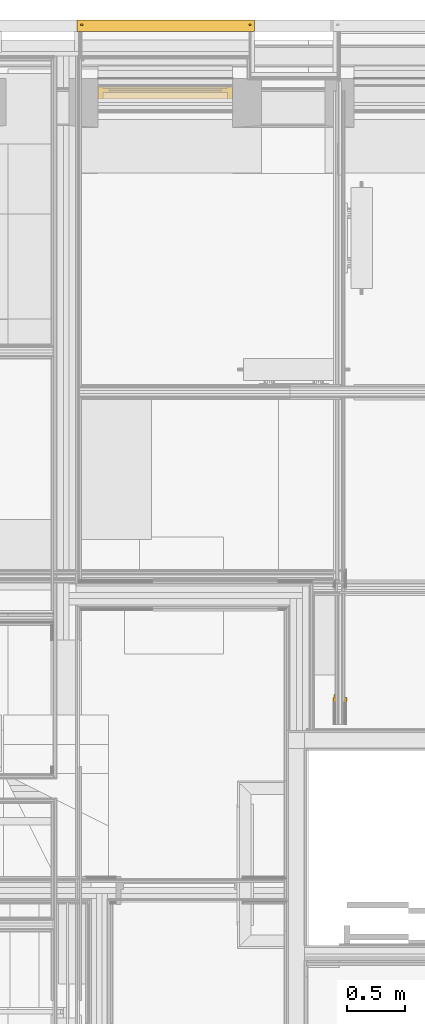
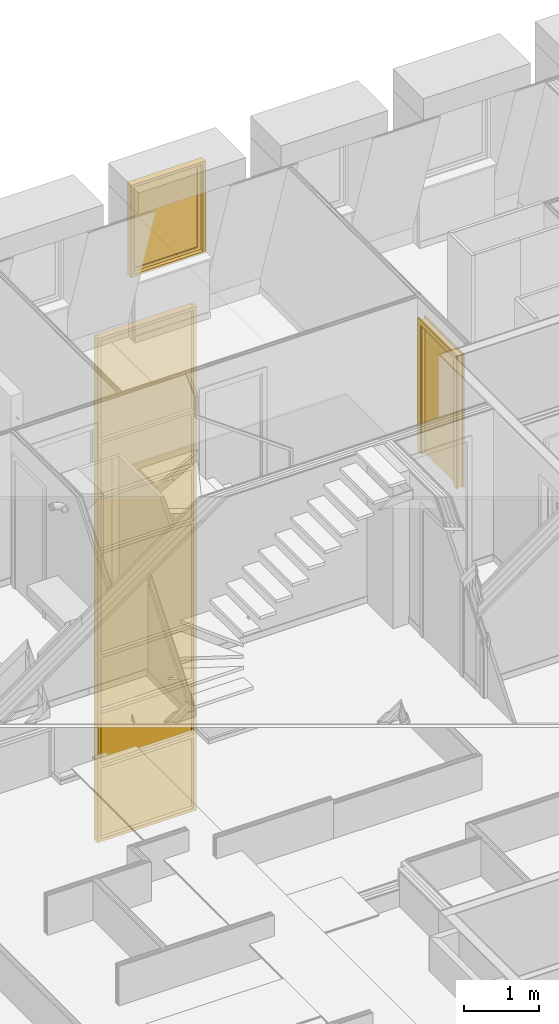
# One storey, part 112 of 169: 1 curtain wall, 1 door, 1 window.
"""IFC2X3 building model written with IfcOpenShell, lengths in metres."""

from ifc_helpers import new_model, entity, si_unit, converted_unit, derived_unit, money_unit, direction, frame, origin_with_axes, place, context, subcontext, project, spatial, faceted_brep, material, type_object, element, save


model = new_model("IFC2X3")

# Units and contexts
model_context = context("Model", 3, precision=1e-05, world=origin_with_axes(), true_north=direction((0.0, 1.0)))
body_context = subcontext(model_context, "Body", "Model", "MODEL_VIEW", scale=1.0)
ifc_project = project(units=[si_unit("LENGTHUNIT", "METRE"), si_unit("AREAUNIT", "SQUARE_METRE"), si_unit("VOLUMEUNIT", "CUBIC_METRE"), si_unit("ABSORBEDDOSEUNIT", "GRAY"), si_unit("AMOUNTOFSUBSTANCEUNIT", "MOLE"), si_unit("DOSEEQUIVALENTUNIT", "SIEVERT"), si_unit("ELECTRICCAPACITANCEUNIT", "FARAD"), si_unit("ELECTRICCHARGEUNIT", "COULOMB"), si_unit("ELECTRICCONDUCTANCEUNIT", "SIEMENS"), si_unit("ELECTRICCURRENTUNIT", "AMPERE"), si_unit("ELECTRICRESISTANCEUNIT", "OHM"), si_unit("ELECTRICVOLTAGEUNIT", "VOLT"), si_unit("ENERGYUNIT", "JOULE"), si_unit("FORCEUNIT", "NEWTON"), si_unit("FREQUENCYUNIT", "HERTZ"), si_unit("ILLUMINANCEUNIT", "LUX"), si_unit("INDUCTANCEUNIT", "HENRY"), si_unit("LUMINOUSFLUXUNIT", "LUMEN"), si_unit("LUMINOUSINTENSITYUNIT", "CANDELA"), si_unit("MAGNETICFLUXDENSITYUNIT", "TESLA"), si_unit("MAGNETICFLUXUNIT", "WEBER"), si_unit("MASSUNIT", "GRAM"), converted_unit("PLANEANGLEUNIT", "degree", entity("IfcReal", 0.0174532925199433), si_unit("PLANEANGLEUNIT", "RADIAN"), dimensions=[0, 0, 0, 0, 0, 0, 0]), si_unit("POWERUNIT", "WATT"), si_unit("PRESSUREUNIT", "PASCAL"), si_unit("RADIOACTIVITYUNIT", "BECQUEREL"), si_unit("SOLIDANGLEUNIT", "STERADIAN"), si_unit("THERMODYNAMICTEMPERATUREUNIT", "KELVIN"), si_unit("TIMEUNIT", "SECOND"), derived_unit("ACCELERATIONUNIT", [(si_unit("LENGTHUNIT", "METRE"), 1), (si_unit("TIMEUNIT", "SECOND"), -2)]), derived_unit("ANGULARVELOCITYUNIT", [(converted_unit("PLANEANGLEUNIT", "degree", entity("IfcReal", 0.0174532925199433), si_unit("PLANEANGLEUNIT", "RADIAN"), dimensions=[0, 0, 0, 0, 0, 0, 0]), 1), (si_unit("TIMEUNIT", "SECOND"), -1)]), derived_unit("CURVATUREUNIT", [(converted_unit("PLANEANGLEUNIT", "degree", entity("IfcReal", 0.0174532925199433), si_unit("PLANEANGLEUNIT", "RADIAN"), dimensions=[0, 0, 0, 0, 0, 0, 0]), 1), (si_unit("LENGTHUNIT", "METRE"), -1)]), derived_unit("DYNAMICVISCOSITYUNIT", [(si_unit("PRESSUREUNIT", "PASCAL"), 1), (si_unit("TIMEUNIT", "SECOND"), 1)]), derived_unit("HEATFLUXDENSITYUNIT", [(si_unit("POWERUNIT", "WATT"), 1), (si_unit("LENGTHUNIT", "METRE"), -2)]), derived_unit("HEATINGVALUEUNIT", [(si_unit("ENERGYUNIT", "JOULE"), 1), (si_unit("MASSUNIT", "GRAM"), -1)]), derived_unit("INTEGERCOUNTRATEUNIT", [(si_unit("TIMEUNIT", "SECOND"), -1)]), derived_unit("IONCONCENTRATIONUNIT", [(si_unit("MASSUNIT", "GRAM"), 1), (si_unit("VOLUMEUNIT", "CUBIC_METRE"), -1)]), derived_unit("ISOTHERMALMOISTURECAPACITYUNIT", [(si_unit("VOLUMEUNIT", "CUBIC_METRE"), 1), (si_unit("MASSUNIT", "GRAM"), -1)]), derived_unit("KINEMATICVISCOSITYUNIT", [(si_unit("AREAUNIT", "SQUARE_METRE"), 1), (si_unit("TIMEUNIT", "SECOND"), -1)]), derived_unit("LINEARFORCEUNIT", [(si_unit("FORCEUNIT", "NEWTON"), 1), (si_unit("LENGTHUNIT", "METRE"), -1)]), derived_unit("LINEARMOMENTUNIT", [(si_unit("FORCEUNIT", "NEWTON"), 1), (si_unit("LENGTHUNIT", "METRE"), -1)]), derived_unit("LINEARSTIFFNESSUNIT", [(si_unit("FORCEUNIT", "NEWTON"), 1), (si_unit("LENGTHUNIT", "METRE"), -1)]), derived_unit("LINEARVELOCITYUNIT", [(si_unit("LENGTHUNIT", "METRE"), 1), (si_unit("TIMEUNIT", "SECOND"), -1)]), derived_unit("LUMINOUSINTENSITYDISTRIBUTIONUNIT", [(si_unit("LUMINOUSINTENSITYUNIT", "CANDELA"), 1), (si_unit("LUMINOUSFLUXUNIT", "LUMEN"), -1)]), derived_unit("MASSDENSITYUNIT", [(si_unit("MASSUNIT", "GRAM"), 1), (si_unit("VOLUMEUNIT", "CUBIC_METRE"), -1)]), derived_unit("MASSFLOWRATEUNIT", [(si_unit("MASSUNIT", "GRAM"), 1), (si_unit("TIMEUNIT", "SECOND"), -1)]), derived_unit("MASSPERLENGTHUNIT", [(si_unit("MASSUNIT", "GRAM"), 1), (si_unit("LENGTHUNIT", "METRE"), -1)]), derived_unit("MODULUSOFELASTICITYUNIT", [(si_unit("FORCEUNIT", "NEWTON"), 1), (si_unit("AREAUNIT", "SQUARE_METRE"), -1)]), derived_unit("MODULUSOFLINEARSUBGRADEREACTIONUNIT", [(si_unit("FORCEUNIT", "NEWTON"), 1), (si_unit("LENGTHUNIT", "METRE"), -2)]), derived_unit("MODULUSOFROTATIONALSUBGRADEREACTIONUNIT", [(si_unit("FORCEUNIT", "NEWTON"), 1), (si_unit("LENGTHUNIT", "METRE"), 1)]), derived_unit("MODULUSOFSUBGRADEREACTIONUNIT", [(si_unit("FORCEUNIT", "NEWTON"), 1), (si_unit("VOLUMEUNIT", "CUBIC_METRE"), -1)]), derived_unit("MOISTUREDIFFUSIVITYUNIT", [(si_unit("VOLUMEUNIT", "CUBIC_METRE"), 1), (si_unit("TIMEUNIT", "SECOND"), -1)]), derived_unit("MOLECULARWEIGHTUNIT", [(si_unit("MASSUNIT", "GRAM"), 1), (si_unit("AMOUNTOFSUBSTANCEUNIT", "MOLE"), -1)]), derived_unit("PLANARFORCEUNIT", [(si_unit("FORCEUNIT", "NEWTON"), 1), (si_unit("LENGTHUNIT", "METRE"), -2)]), derived_unit("ROTATIONALFREQUENCYUNIT", [(si_unit("TIMEUNIT", "SECOND"), -1)]), derived_unit("ROTATIONALMASSUNIT", [(si_unit("MASSUNIT", "GRAM"), 1), (si_unit("LENGTHUNIT", "METRE"), 2)]), derived_unit("ROTATIONALSTIFFNESSUNIT", [(si_unit("FORCEUNIT", "NEWTON"), 1), (si_unit("LENGTHUNIT", "METRE"), 1), (converted_unit("PLANEANGLEUNIT", "degree", entity("IfcReal", 0.0174532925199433), si_unit("PLANEANGLEUNIT", "RADIAN"), dimensions=[0, 0, 0, 0, 0, 0, 0]), -1)]), derived_unit("SECTIONAREAINTEGRALUNIT", [(si_unit("LENGTHUNIT", "METRE"), 5)]), derived_unit("SECTIONMODULUSUNIT", [(si_unit("LENGTHUNIT", "METRE"), 3)]), derived_unit("SHEARMODULUSUNIT", [(si_unit("FORCEUNIT", "NEWTON"), 1), (si_unit("AREAUNIT", "SQUARE_METRE"), -1)]), derived_unit("SOUNDPOWERUNIT", [(si_unit("ENERGYUNIT", "JOULE"), 1), (si_unit("TIMEUNIT", "SECOND"), -1)]), derived_unit("SPECIFICHEATCAPACITYUNIT", [(si_unit("FORCEUNIT", "NEWTON"), 1), (si_unit("MASSUNIT", "GRAM"), -1), (si_unit("THERMODYNAMICTEMPERATUREUNIT", "KELVIN"), -1)]), derived_unit("TEMPERATUREGRADIENTUNIT", [(si_unit("THERMODYNAMICTEMPERATUREUNIT", "KELVIN"), 1), (si_unit("LENGTHUNIT", "METRE"), -1)]), derived_unit("THERMALADMITTANCEUNIT", [(si_unit("POWERUNIT", "WATT"), 1), (si_unit("AREAUNIT", "SQUARE_METRE"), -1), (si_unit("THERMODYNAMICTEMPERATUREUNIT", "KELVIN"), -1)]), derived_unit("THERMALCONDUCTANCEUNIT", [(si_unit("POWERUNIT", "WATT"), 1), (si_unit("LENGTHUNIT", "METRE"), -1), (si_unit("THERMODYNAMICTEMPERATUREUNIT", "KELVIN"), -1)]), derived_unit("THERMALEXPANSIONCOEFFICIENTUNIT", [(si_unit("THERMODYNAMICTEMPERATUREUNIT", "KELVIN"), -1)]), derived_unit("THERMALRESISTANCEUNIT", [(si_unit("AREAUNIT", "SQUARE_METRE"), 1), (si_unit("POWERUNIT", "WATT"), -1)]), derived_unit("THERMALTRANSMITTANCEUNIT", [(si_unit("POWERUNIT", "WATT"), 1), (si_unit("AREAUNIT", "SQUARE_METRE"), -1), (si_unit("THERMODYNAMICTEMPERATUREUNIT", "KELVIN"), -1)]), derived_unit("TORQUEUNIT", [(si_unit("FORCEUNIT", "NEWTON"), 1), (si_unit("LENGTHUNIT", "METRE"), 1)]), derived_unit("VAPORPERMEABILITYUNIT", [(si_unit("MASSUNIT", "GRAM"), 1), (si_unit("TIMEUNIT", "SECOND"), -1)]), derived_unit("VOLUMETRICFLOWRATEUNIT", [(si_unit("VOLUMEUNIT", "CUBIC_METRE"), 1), (si_unit("TIMEUNIT", "SECOND"), -1)]), derived_unit("WARPINGCONSTANTUNIT", [(si_unit("LENGTHUNIT", "METRE"), 6)]), derived_unit("WARPINGMOMENTUNIT", [(si_unit("FORCEUNIT", "NEWTON"), 1), (si_unit("LENGTHUNIT", "METRE"), 2)]), money_unit("GBP")], contexts=[model_context])

# Site, building, storey
site_placement = place(None, origin_with_axes())
site = spatial("IfcSite", under=ifc_project, at=site_placement, Name="Site", CompositionType="ELEMENT")
building_placement = place(site_placement, origin_with_axes())
building = spatial("IfcBuilding", under=site, at=building_placement, Name="Building01", CompositionType="ELEMENT")
storey_placement = place(building_placement, frame((0.0, 0.0, 5.15), z_axis=(0.0, 0.0, 1.0), x_axis=(1.0, 0.0, 0.0)))
storey = spatial("IfcBuildingStorey", under=building, at=storey_placement, Name="1F", CompositionType="ELEMENT", Elevation=5.15)

# Curtain wall
ifc_material_1 = material(Name="A-CurtainWall_Frame")
curtain_wall_type = type_object("IfcCurtainWallType", Name="Pattern - Maximum Spacing", PredefinedType="NOTDEFINED")
curtain_wall_placement = place(storey_placement, frame((0.0, 0.0, -5.15), z_axis=(0.0, 0.0, 1.0), x_axis=(1.0, 0.0, 0.0)))
element("IfcCurtainWall", 1, at=curtain_wall_placement, inside=storey, type_object=curtain_wall_type, material=ifc_material_1, Name="09", ObjectType="Pattern - Maximum Spacing", context=body_context, shape_type="Brep", body=[
    faceted_brep([(8.76, 14.855, 7.716517), (8.76, 14.865, 7.716517), (7.3, 14.865, 7.716517), (7.3, 14.855, 7.716517), (8.76, 14.855, 6.530918), (8.76, 14.865, 6.530918), (7.3, 14.855, 6.530918), (7.3, 14.865, 6.530918)], [[[0, 1, 2, 3]], [[4, 5, 1, 0]], [[6, 7, 5, 4]], [[3, 2, 7, 6]], [[1, 5, 7, 2]], [[3, 6, 4, 0]]]),
    faceted_brep([(7.27, 14.9, 6.500918), (7.32, 14.9, 6.500918), (7.32, 14.865, 6.500918), (7.3, 14.865, 6.500918), (7.3, 14.855, 6.500918), (7.32, 14.855, 6.500918), (7.32, 14.8, 6.500918), (7.27, 14.8, 6.500918), (7.27, 14.8, 7.721517), (7.27, 14.9, 7.721517), (7.32, 14.9, 7.721517), (7.32, 14.865, 7.721517), (7.3, 14.865, 7.721517), (7.3, 14.855, 7.721517), (7.32, 14.855, 7.721517), (7.32, 14.8, 7.721517)], [[[0, 1, 2, 3, 4, 5, 6, 7]], [[7, 8, 9, 0]], [[0, 9, 10, 1]], [[1, 10, 11, 2]], [[2, 11, 12, 3]], [[3, 12, 13, 4]], [[4, 13, 14, 5]], [[5, 14, 15, 6]], [[6, 15, 8, 7]]]),
    faceted_brep([(8.74, 14.9, 6.550918), (8.74, 14.865, 6.550918), (8.74, 14.865, 6.530918), (8.74, 14.855, 6.530918), (8.74, 14.855, 6.550918), (8.74, 14.8, 6.550918), (8.74, 14.8, 6.500918), (8.74, 14.9, 6.500918), (7.32, 14.9, 6.500918), (7.32, 14.9, 6.550918), (7.32, 14.865, 6.550918), (7.32, 14.865, 6.530918), (7.32, 14.855, 6.530918), (7.32, 14.855, 6.550918), (7.32, 14.8, 6.550918), (7.32, 14.8, 6.500918)], [[[0, 1, 2, 3, 4, 5, 6, 7]], [[7, 8, 9, 0]], [[0, 9, 10, 1]], [[1, 10, 11, 2]], [[2, 11, 12, 3]], [[3, 12, 13, 4]], [[4, 13, 14, 5]], [[5, 14, 15, 6]], [[6, 15, 8, 7]], [[8, 15, 14, 13, 12, 11, 10, 9]]]),
    faceted_brep([(8.79, 14.9, 6.500918), (8.79, 14.9, 7.721517), (8.79, 14.8, 7.721517), (8.79, 14.8, 6.500918), (8.74, 14.9, 6.500918), (8.74, 14.9, 7.721517), (8.74, 14.865, 6.500918), (8.74, 14.865, 7.721517), (8.76, 14.865, 6.500918), (8.76, 14.865, 7.721517), (8.76, 14.855, 6.500918), (8.76, 14.855, 7.721517), (8.74, 14.855, 6.500918), (8.74, 14.855, 7.721517), (8.74, 14.8, 6.500918), (8.74, 14.8, 7.721517)], [[[0, 1, 2, 3]], [[4, 5, 1, 0]], [[6, 7, 5, 4]], [[8, 9, 7, 6]], [[10, 11, 9, 8]], [[12, 13, 11, 10]], [[14, 15, 13, 12]], [[3, 2, 15, 14]], [[14, 12, 10, 8, 6, 4, 0, 3]]]),
    faceted_brep([(7.32, 14.855, 7.726517), (7.32, 14.865, 7.726517), (7.32, 14.865, 7.746517), (7.32, 14.9, 7.746517), (7.32, 14.9, 7.696517), (7.32, 14.865, 7.696517), (7.32, 14.865, 7.716517), (7.32, 14.855, 7.716517), (7.32, 14.855, 7.696517), (7.32, 14.8, 7.696517), (7.32, 14.8, 7.746517), (7.32, 14.855, 7.746517), (8.74, 14.855, 7.746517), (8.74, 14.855, 7.726517), (8.74, 14.865, 7.726517), (8.74, 14.865, 7.746517), (8.74, 14.9, 7.746517), (8.74, 14.9, 7.696517), (8.74, 14.865, 7.696517), (8.74, 14.855, 7.716517), (8.74, 14.855, 7.696517), (8.74, 14.865, 7.716517), (8.74, 14.8, 7.746517), (8.74, 14.8, 7.696517)], [[[0, 1, 2, 3, 4, 5, 6, 7, 8, 9, 10, 11]], [[11, 12, 13, 0]], [[0, 13, 14, 1]], [[1, 14, 15, 2]], [[2, 15, 16, 3]], [[3, 16, 17, 4]], [[4, 17, 18, 5]], [[7, 19, 20, 8]], [[6, 21, 19, 7]], [[5, 18, 21, 6]], [[10, 22, 12, 11]], [[9, 23, 22, 10]], [[8, 20, 23, 9]], [[20, 19, 21, 18, 17, 16, 15, 14, 13, 12, 22, 23]]]),
    faceted_brep([(8.76, 14.85, 8.613217), (8.76, 14.87, 8.613217), (7.3, 14.87, 8.613217), (7.3, 14.85, 8.613217), (8.76, 14.85, 7.726517), (8.76, 14.87, 7.726517), (7.3, 14.85, 7.726517), (7.3, 14.87, 7.726517)], [[[0, 1, 2, 3]], [[4, 5, 1, 0]], [[6, 7, 5, 4]], [[3, 2, 7, 6]], [[1, 5, 7, 2]], [[3, 6, 4, 0]]]),
    faceted_brep([(7.32, 14.8, 8.618217), (7.32, 14.8, 7.721517), (7.32, 14.855, 7.721517), (7.32, 14.855, 8.618217), (7.27, 14.8, 8.618217), (7.27, 14.8, 7.721517), (7.27, 14.9, 8.618217), (7.27, 14.9, 7.721517), (7.32, 14.9, 8.618217), (7.32, 14.9, 7.721517), (7.32, 14.865, 8.618217), (7.32, 14.865, 7.721517), (7.3, 14.865, 8.618217), (7.3, 14.865, 7.721517), (7.3, 14.855, 8.618217), (7.3, 14.855, 7.721517)], [[[0, 1, 2, 3]], [[4, 5, 1, 0]], [[6, 7, 5, 4]], [[8, 9, 7, 6]], [[10, 11, 9, 8]], [[12, 13, 11, 10]], [[14, 15, 13, 12]], [[3, 2, 15, 14]]]),
    faceted_brep([(8.79, 14.9, 7.721517), (8.79, 14.9, 8.618217), (8.79, 14.8, 8.618217), (8.79, 14.8, 7.721517), (8.74, 14.9, 7.721517), (8.74, 14.9, 8.618217), (8.74, 14.865, 7.721517), (8.74, 14.865, 8.618217), (8.76, 14.865, 7.721517), (8.76, 14.865, 8.618217), (8.76, 14.855, 7.721517), (8.76, 14.855, 8.618217), (8.74, 14.855, 7.721517), (8.74, 14.855, 8.618217), (8.74, 14.8, 7.721517), (8.74, 14.8, 8.618217)], [[[0, 1, 2, 3]], [[4, 5, 1, 0]], [[6, 7, 5, 4]], [[8, 9, 7, 6]], [[10, 11, 9, 8]], [[12, 13, 11, 10]], [[14, 15, 13, 12]], [[3, 2, 15, 14]]]),
    faceted_brep([(7.32, 14.8375, 8.623217), (7.32, 14.8475, 8.623217), (7.32, 14.8475, 8.643217), (7.32, 14.8825, 8.643217), (7.32, 14.8825, 8.593217), (7.32, 14.8475, 8.593217), (7.32, 14.8475, 8.613217), (7.32, 14.8375, 8.613217), (7.32, 14.8375, 8.593217), (7.32, 14.7825, 8.593217), (7.32, 14.7825, 8.643217), (7.32, 14.8375, 8.643217), (8.74, 14.8375, 8.643217), (8.74, 14.8375, 8.623217), (8.74, 14.8475, 8.623217), (8.74, 14.8475, 8.643217), (8.74, 14.8825, 8.643217), (8.74, 14.8825, 8.593217), (8.74, 14.8475, 8.593217), (8.74, 14.8375, 8.613217), (8.74, 14.8375, 8.593217), (8.74, 14.8475, 8.613217), (8.74, 14.7825, 8.643217), (8.74, 14.7825, 8.593217)], [[[0, 1, 2, 3, 4, 5, 6, 7, 8, 9, 10, 11]], [[11, 12, 13, 0]], [[0, 13, 14, 1]], [[1, 14, 15, 2]], [[2, 15, 16, 3]], [[3, 16, 17, 4]], [[4, 17, 18, 5]], [[7, 19, 20, 8]], [[6, 21, 19, 7]], [[5, 18, 21, 6]], [[10, 22, 12, 11]], [[9, 23, 22, 10]], [[8, 20, 23, 9]], [[20, 19, 21, 18, 17, 16, 15, 14, 13, 12, 22, 23]]]),
    faceted_brep([(8.76, 14.85, 9.509916), (8.76, 14.87, 9.509916), (7.3, 14.87, 9.509916), (7.3, 14.85, 9.509916), (8.76, 14.85, 8.623217), (8.76, 14.87, 8.623217), (7.3, 14.85, 8.623217), (7.3, 14.87, 8.623217)], [[[0, 1, 2, 3]], [[4, 5, 1, 0]], [[6, 7, 5, 4]], [[3, 2, 7, 6]], [[1, 5, 7, 2]], [[3, 6, 4, 0]]]),
    faceted_brep([(7.32, 14.8, 9.514916), (7.32, 14.8, 8.618217), (7.32, 14.855, 8.618217), (7.32, 14.855, 9.514916), (7.27, 14.8, 9.514916), (7.27, 14.8, 8.618217), (7.27, 14.9, 9.514916), (7.27, 14.9, 8.618217), (7.32, 14.9, 9.514916), (7.32, 14.9, 8.618217), (7.32, 14.865, 9.514916), (7.32, 14.865, 8.618217), (7.3, 14.865, 9.514916), (7.3, 14.865, 8.618217), (7.3, 14.855, 9.514916), (7.3, 14.855, 8.618217)], [[[0, 1, 2, 3]], [[4, 5, 1, 0]], [[6, 7, 5, 4]], [[8, 9, 7, 6]], [[10, 11, 9, 8]], [[12, 13, 11, 10]], [[14, 15, 13, 12]], [[3, 2, 15, 14]]]),
    faceted_brep([(8.79, 14.9, 8.618217), (8.79, 14.9, 9.514916), (8.79, 14.8, 9.514916), (8.79, 14.8, 8.618217), (8.74, 14.9, 8.618217), (8.74, 14.9, 9.514916), (8.74, 14.865, 8.618217), (8.74, 14.865, 9.514916), (8.76, 14.865, 8.618217), (8.76, 14.865, 9.514916), (8.76, 14.855, 8.618217), (8.76, 14.855, 9.514916), (8.74, 14.855, 8.618217), (8.74, 14.855, 9.514916), (8.74, 14.8, 8.618217), (8.74, 14.8, 9.514916)], [[[0, 1, 2, 3]], [[4, 5, 1, 0]], [[6, 7, 5, 4]], [[8, 9, 7, 6]], [[10, 11, 9, 8]], [[12, 13, 11, 10]], [[14, 15, 13, 12]], [[3, 2, 15, 14]]]),
    faceted_brep([(7.32, 14.855, 9.519916), (7.32, 14.865, 9.519916), (7.32, 14.865, 9.539916), (7.32, 14.9, 9.539916), (7.32, 14.9, 9.489916), (7.32, 14.865, 9.489916), (7.32, 14.865, 9.509916), (7.32, 14.855, 9.509916), (7.32, 14.855, 9.489916), (7.32, 14.8, 9.489916), (7.32, 14.8, 9.539916), (7.32, 14.855, 9.539916), (8.74, 14.855, 9.539916), (8.74, 14.855, 9.519916), (8.74, 14.865, 9.519916), (8.74, 14.865, 9.539916), (8.74, 14.9, 9.539916), (8.74, 14.9, 9.489916), (8.74, 14.865, 9.489916), (8.74, 14.855, 9.509916), (8.74, 14.855, 9.489916), (8.74, 14.865, 9.509916), (8.74, 14.8, 9.539916), (8.74, 14.8, 9.489916)], [[[0, 1, 2, 3, 4, 5, 6, 7, 8, 9, 10, 11]], [[11, 12, 13, 0]], [[0, 13, 14, 1]], [[1, 14, 15, 2]], [[2, 15, 16, 3]], [[3, 16, 17, 4]], [[4, 17, 18, 5]], [[7, 19, 20, 8]], [[6, 21, 19, 7]], [[5, 18, 21, 6]], [[10, 22, 12, 11]], [[9, 23, 22, 10]], [[8, 20, 23, 9]], [[20, 19, 21, 18, 17, 16, 15, 14, 13, 12, 22, 23]]]),
    faceted_brep([(8.76, 14.855, 11.203681), (8.76, 14.865, 11.203681), (7.3, 14.865, 11.203681), (7.3, 14.855, 11.203681), (8.76, 14.855, 9.519916), (8.76, 14.865, 9.519916), (7.3, 14.855, 9.519916), (7.3, 14.865, 9.519916)], [[[0, 1, 2, 3]], [[4, 5, 1, 0]], [[6, 7, 5, 4]], [[3, 2, 7, 6]], [[1, 5, 7, 2]], [[3, 6, 4, 0]]]),
    faceted_brep([(7.32, 14.8, 11.208681), (7.32, 14.8, 9.514916), (7.32, 14.855, 9.514916), (7.32, 14.855, 11.208681), (7.27, 14.8, 11.208681), (7.27, 14.8, 9.514916), (7.27, 14.9, 11.208681), (7.27, 14.9, 9.514916), (7.32, 14.9, 11.208681), (7.32, 14.9, 9.514916), (7.32, 14.865, 11.208681), (7.32, 14.865, 9.514916), (7.3, 14.865, 11.208681), (7.3, 14.865, 9.514916), (7.3, 14.855, 11.208681), (7.3, 14.855, 9.514916)], [[[0, 1, 2, 3]], [[4, 5, 1, 0]], [[6, 7, 5, 4]], [[8, 9, 7, 6]], [[10, 11, 9, 8]], [[12, 13, 11, 10]], [[14, 15, 13, 12]], [[3, 2, 15, 14]]]),
    faceted_brep([(8.79, 14.9, 9.514916), (8.79, 14.9, 11.208681), (8.79, 14.8, 11.208681), (8.79, 14.8, 9.514916), (8.74, 14.9, 9.514916), (8.74, 14.9, 11.208681), (8.74, 14.865, 9.514916), (8.74, 14.865, 11.208681), (8.76, 14.865, 9.514916), (8.76, 14.865, 11.208681), (8.76, 14.855, 9.514916), (8.76, 14.855, 11.208681), (8.74, 14.855, 9.514916), (8.74, 14.855, 11.208681), (8.74, 14.8, 9.514916), (8.74, 14.8, 11.208681)], [[[0, 1, 2, 3]], [[4, 5, 1, 0]], [[6, 7, 5, 4]], [[8, 9, 7, 6]], [[10, 11, 9, 8]], [[12, 13, 11, 10]], [[14, 15, 13, 12]], [[3, 2, 15, 14]]]),
    faceted_brep([(7.32, 14.855, 11.213681), (7.32, 14.865, 11.213681), (7.32, 14.865, 11.233681), (7.32, 14.9, 11.233681), (7.32, 14.9, 11.183681), (7.32, 14.865, 11.183681), (7.32, 14.865, 11.203681), (7.32, 14.855, 11.203681), (7.32, 14.855, 11.183681), (7.32, 14.8, 11.183681), (7.32, 14.8, 11.233681), (7.32, 14.855, 11.233681), (8.74, 14.855, 11.233681), (8.74, 14.855, 11.213681), (8.74, 14.865, 11.213681), (8.74, 14.865, 11.233681), (8.74, 14.9, 11.233681), (8.74, 14.9, 11.183681), (8.74, 14.865, 11.183681), (8.74, 14.855, 11.203681), (8.74, 14.855, 11.183681), (8.74, 14.865, 11.203681), (8.74, 14.8, 11.233681), (8.74, 14.8, 11.183681)], [[[0, 1, 2, 3, 4, 5, 6, 7, 8, 9, 10, 11]], [[11, 12, 13, 0]], [[0, 13, 14, 1]], [[1, 14, 15, 2]], [[2, 15, 16, 3]], [[3, 16, 17, 4]], [[4, 17, 18, 5]], [[7, 19, 20, 8]], [[6, 21, 19, 7]], [[5, 18, 21, 6]], [[10, 22, 12, 11]], [[9, 23, 22, 10]], [[8, 20, 23, 9]], [[20, 19, 21, 18, 17, 16, 15, 14, 13, 12, 22, 23]]]),
    faceted_brep([(8.76, 14.85, 12.10038), (8.76, 14.87, 12.10038), (7.3, 14.87, 12.10038), (7.3, 14.85, 12.10038), (8.76, 14.85, 11.213681), (8.76, 14.87, 11.213681), (7.3, 14.85, 11.213681), (7.3, 14.87, 11.213681)], [[[0, 1, 2, 3]], [[4, 5, 1, 0]], [[6, 7, 5, 4]], [[3, 2, 7, 6]], [[1, 5, 7, 2]], [[3, 6, 4, 0]]]),
    faceted_brep([(7.32, 14.8, 12.10538), (7.32, 14.8, 11.208681), (7.32, 14.855, 11.208681), (7.32, 14.855, 12.10538), (7.27, 14.8, 12.10538), (7.27, 14.8, 11.208681), (7.27, 14.9, 12.10538), (7.27, 14.9, 11.208681), (7.32, 14.9, 12.10538), (7.32, 14.9, 11.208681), (7.32, 14.865, 12.10538), (7.32, 14.865, 11.208681), (7.3, 14.865, 12.10538), (7.3, 14.865, 11.208681), (7.3, 14.855, 12.10538), (7.3, 14.855, 11.208681)], [[[0, 1, 2, 3]], [[4, 5, 1, 0]], [[6, 7, 5, 4]], [[8, 9, 7, 6]], [[10, 11, 9, 8]], [[12, 13, 11, 10]], [[14, 15, 13, 12]], [[3, 2, 15, 14]]]),
    faceted_brep([(8.79, 14.9, 11.208681), (8.79, 14.9, 12.10538), (8.79, 14.8, 12.10538), (8.79, 14.8, 11.208681), (8.74, 14.9, 11.208681), (8.74, 14.9, 12.10538), (8.74, 14.865, 11.208681), (8.74, 14.865, 12.10538), (8.76, 14.865, 11.208681), (8.76, 14.865, 12.10538), (8.76, 14.855, 11.208681), (8.76, 14.855, 12.10538), (8.74, 14.855, 11.208681), (8.74, 14.855, 12.10538), (8.74, 14.8, 11.208681), (8.74, 14.8, 12.10538)], [[[0, 1, 2, 3]], [[4, 5, 1, 0]], [[6, 7, 5, 4]], [[8, 9, 7, 6]], [[10, 11, 9, 8]], [[12, 13, 11, 10]], [[14, 15, 13, 12]], [[3, 2, 15, 14]]]),
    faceted_brep([(7.32, 14.8375, 12.11038), (7.32, 14.8475, 12.11038), (7.32, 14.8475, 12.13038), (7.32, 14.8825, 12.13038), (7.32, 14.8825, 12.08038), (7.32, 14.8475, 12.08038), (7.32, 14.8475, 12.10038), (7.32, 14.8375, 12.10038), (7.32, 14.8375, 12.08038), (7.32, 14.7825, 12.08038), (7.32, 14.7825, 12.13038), (7.32, 14.8375, 12.13038), (8.74, 14.8375, 12.13038), (8.74, 14.8375, 12.11038), (8.74, 14.8475, 12.11038), (8.74, 14.8475, 12.13038), (8.74, 14.8825, 12.13038), (8.74, 14.8825, 12.08038), (8.74, 14.8475, 12.08038), (8.74, 14.8375, 12.10038), (8.74, 14.8375, 12.08038), (8.74, 14.8475, 12.10038), (8.74, 14.7825, 12.13038), (8.74, 14.7825, 12.08038)], [[[0, 1, 2, 3, 4, 5, 6, 7, 8, 9, 10, 11]], [[11, 12, 13, 0]], [[0, 13, 14, 1]], [[1, 14, 15, 2]], [[2, 15, 16, 3]], [[3, 16, 17, 4]], [[4, 17, 18, 5]], [[7, 19, 20, 8]], [[6, 21, 19, 7]], [[5, 18, 21, 6]], [[10, 22, 12, 11]], [[9, 23, 22, 10]], [[8, 20, 23, 9]], [[20, 19, 21, 18, 17, 16, 15, 14, 13, 12, 22, 23]]]),
    faceted_brep([(7.3, 14.855, 13.00708), (7.3, 14.865, 13.00708), (8.76, 14.865, 13.00708), (8.76, 14.855, 13.00708), (7.3, 14.855, 14.670918), (7.3, 14.865, 14.670918), (8.76, 14.855, 14.670918), (8.76, 14.865, 14.670918)], [[[0, 1, 2, 3]], [[4, 5, 1, 0]], [[6, 7, 5, 4]], [[3, 2, 7, 6]], [[1, 5, 7, 2]], [[3, 6, 4, 0]]]),
    faceted_brep([(8.79, 14.9, 14.700918), (8.74, 14.9, 14.700918), (8.74, 14.865, 14.700918), (8.76, 14.865, 14.700918), (8.76, 14.855, 14.700918), (8.74, 14.855, 14.700918), (8.74, 14.8, 14.700918), (8.79, 14.8, 14.700918), (8.79, 14.8, 13.00208), (8.79, 14.9, 13.00208), (8.74, 14.9, 13.00208), (8.74, 14.865, 13.00208), (8.76, 14.865, 13.00208), (8.76, 14.855, 13.00208), (8.74, 14.855, 13.00208), (8.74, 14.8, 13.00208)], [[[0, 1, 2, 3, 4, 5, 6, 7]], [[7, 8, 9, 0]], [[0, 9, 10, 1]], [[1, 10, 11, 2]], [[2, 11, 12, 3]], [[3, 12, 13, 4]], [[4, 13, 14, 5]], [[5, 14, 15, 6]], [[6, 15, 8, 7]]]),
    faceted_brep([(7.32, 14.865, 14.670918), (7.32, 14.855, 14.670918), (7.32, 14.855, 14.650918), (7.32, 14.8, 14.650918), (7.32, 14.8, 14.700918), (7.32, 14.9, 14.700918), (7.32, 14.9, 14.650918), (7.32, 14.865, 14.650918), (8.74, 14.865, 14.650918), (8.74, 14.865, 14.670918), (8.74, 14.855, 14.670918), (8.74, 14.855, 14.650918), (8.74, 14.8, 14.650918), (8.74, 14.8, 14.700918), (8.74, 14.9, 14.700918), (8.74, 14.9, 14.650918)], [[[0, 1, 2, 3, 4, 5, 6, 7]], [[7, 8, 9, 0]], [[0, 9, 10, 1]], [[1, 10, 11, 2]], [[2, 11, 12, 3]], [[3, 12, 13, 4]], [[4, 13, 14, 5]], [[5, 14, 15, 6]], [[6, 15, 8, 7]], [[8, 15, 14, 13, 12, 11, 10, 9]]]),
    faceted_brep([(7.27, 14.9, 14.700918), (7.27, 14.9, 13.00208), (7.27, 14.8, 13.00208), (7.27, 14.8, 14.700918), (7.32, 14.9, 14.700918), (7.32, 14.9, 13.00208), (7.32, 14.865, 14.700918), (7.32, 14.865, 13.00208), (7.3, 14.865, 14.700918), (7.3, 14.865, 13.00208), (7.3, 14.855, 14.700918), (7.3, 14.855, 13.00208), (7.32, 14.855, 14.700918), (7.32, 14.855, 13.00208), (7.32, 14.8, 14.700918), (7.32, 14.8, 13.00208)], [[[0, 1, 2, 3]], [[4, 5, 1, 0]], [[6, 7, 5, 4]], [[8, 9, 7, 6]], [[10, 11, 9, 8]], [[12, 13, 11, 10]], [[14, 15, 13, 12]], [[3, 2, 15, 14]], [[14, 12, 10, 8, 6, 4, 0, 3]]]),
    faceted_brep([(8.74, 14.865, 13.00708), (8.74, 14.855, 13.00708), (8.74, 14.855, 13.02708), (8.74, 14.8, 13.02708), (8.74, 14.8, 12.97708), (8.74, 14.855, 12.97708), (8.74, 14.855, 12.99708), (8.74, 14.865, 12.99708), (8.74, 14.865, 12.97708), (8.74, 14.9, 12.97708), (8.74, 14.9, 13.02708), (8.74, 14.865, 13.02708), (7.32, 14.865, 13.02708), (7.32, 14.865, 13.00708), (7.32, 14.855, 13.00708), (7.32, 14.855, 13.02708), (7.32, 14.8, 13.02708), (7.32, 14.8, 12.97708), (7.32, 14.855, 12.97708), (7.32, 14.865, 12.99708), (7.32, 14.865, 12.97708), (7.32, 14.855, 12.99708), (7.32, 14.9, 13.02708), (7.32, 14.9, 12.97708)], [[[0, 1, 2, 3, 4, 5, 6, 7, 8, 9, 10, 11]], [[11, 12, 13, 0]], [[0, 13, 14, 1]], [[1, 14, 15, 2]], [[2, 15, 16, 3]], [[3, 16, 17, 4]], [[4, 17, 18, 5]], [[7, 19, 20, 8]], [[6, 21, 19, 7]], [[5, 18, 21, 6]], [[10, 22, 12, 11]], [[9, 23, 22, 10]], [[8, 20, 23, 9]], [[20, 19, 21, 18, 17, 16, 15, 14, 13, 12, 22, 23]]]),
    faceted_brep([(8.76, 14.85, 12.99708), (8.76, 14.87, 12.99708), (7.3, 14.87, 12.99708), (7.3, 14.85, 12.99708), (8.76, 14.85, 12.11038), (8.76, 14.87, 12.11038), (7.3, 14.85, 12.11038), (7.3, 14.87, 12.11038)], [[[0, 1, 2, 3]], [[4, 5, 1, 0]], [[6, 7, 5, 4]], [[3, 2, 7, 6]], [[1, 5, 7, 2]], [[3, 6, 4, 0]]]),
    faceted_brep([(7.32, 14.8, 13.00208), (7.32, 14.8, 12.10538), (7.32, 14.855, 12.10538), (7.32, 14.855, 13.00208), (7.27, 14.8, 13.00208), (7.27, 14.8, 12.10538), (7.27, 14.9, 13.00208), (7.27, 14.9, 12.10538), (7.32, 14.9, 13.00208), (7.32, 14.9, 12.10538), (7.32, 14.865, 13.00208), (7.32, 14.865, 12.10538), (7.3, 14.865, 13.00208), (7.3, 14.865, 12.10538), (7.3, 14.855, 13.00208), (7.3, 14.855, 12.10538)], [[[0, 1, 2, 3]], [[4, 5, 1, 0]], [[6, 7, 5, 4]], [[8, 9, 7, 6]], [[10, 11, 9, 8]], [[12, 13, 11, 10]], [[14, 15, 13, 12]], [[3, 2, 15, 14]]]),
    faceted_brep([(8.79, 14.9, 12.10538), (8.79, 14.9, 13.00208), (8.79, 14.8, 13.00208), (8.79, 14.8, 12.10538), (8.74, 14.9, 12.10538), (8.74, 14.9, 13.00208), (8.74, 14.865, 12.10538), (8.74, 14.865, 13.00208), (8.76, 14.865, 12.10538), (8.76, 14.865, 13.00208), (8.76, 14.855, 12.10538), (8.76, 14.855, 13.00208), (8.74, 14.855, 12.10538), (8.74, 14.855, 13.00208), (8.74, 14.8, 12.10538), (8.74, 14.8, 13.00208)], [[[0, 1, 2, 3]], [[4, 5, 1, 0]], [[6, 7, 5, 4]], [[8, 9, 7, 6]], [[10, 11, 9, 8]], [[12, 13, 11, 10]], [[14, 15, 13, 12]], [[3, 2, 15, 14]]]),
])

# Space
space_placement = place(storey_placement, frame((1.009939, 13.890379, 9.86), z_axis=(0.0, 0.0, 1.0), x_axis=(0.0, -1.0, 0.0)))
space = spatial("IfcSpace", under=storey, at=space_placement, Name="26", CompositionType="ELEMENT", InteriorOrExteriorSpace="NOTDEFINED")

# Window
ifc_material_2 = material(Name="A_BSUK_Windows")
window_style = type_object("IfcWindowStyle", Name="A-Awning", ConstructionType="NOTDEFINED", OperationType="USERDEFINED", ParameterTakesPrecedence=False, Sizeable=False)
window_placement = place(storey_placement, frame((7.450024, 14.350061, 10.83), z_axis=(0.0, 0.0, 1.0), x_axis=(-1.0, 0.0, 0.0)))
element("IfcWindow", 2, at=window_placement, inside=space, type_object=window_style, material=ifc_material_2, Name="4.16", ObjectType="A-Awning", OverallHeight=1.50000000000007, OverallWidth=1.15000000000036, context=body_context, shape_type="Brep", body=[
    faceted_brep([(-1.108, 0.0254, 0.042), (-0.042, 0.0254, 0.042), (-0.042, 0.1254, 0.042), (-1.108, 0.1254, 0.042), (-1.108, 0.0254, 1.458), (-1.108, 0.1254, 1.458), (-0.042, 0.0254, 1.458), (-0.042, 0.1254, 1.458), (0.0, 0.0254, 0.0), (0.0, 0.0254, 1.5), (-1.15, 0.0254, 1.5), (-1.15, 0.0254, 0.0), (0.0, 0.1254, 1.5), (-1.15, 0.1254, 1.5), (-1.15, 0.1254, 0.0), (0.0, 0.1254, 0.0)], [[[0, 1, 2, 3]], [[4, 0, 3, 5]], [[6, 4, 5, 7]], [[8, 9, 10, 11], [4, 6, 1, 0]], [[1, 6, 7, 2]], [[12, 13, 10, 9]], [[14, 15, 8, 11]], [[13, 14, 11, 10]], [[13, 12, 15, 14], [2, 7, 5, 3]], [[15, 12, 9, 8]]]),
    faceted_brep([(-1.0572, 0.0354, 0.0928), (-0.0928, 0.0354, 0.0928), (-0.0928, 0.0704, 0.0928), (-1.0572, 0.0704, 0.0928), (-1.0572, 0.0354, 1.4072), (-1.0572, 0.0704, 1.4072), (-0.0928, 0.0354, 1.4072), (-0.0928, 0.0704, 1.4072), (-1.108, 0.0704, 1.458), (-0.042, 0.0704, 1.458), (-0.042, 0.0704, 0.042), (-1.108, 0.0704, 0.042), (-1.108, 0.0354, 1.458), (-0.042, 0.0354, 1.458), (-0.042, 0.0354, 0.042), (-1.108, 0.0354, 0.042)], [[[0, 1, 2, 3]], [[4, 0, 3, 5]], [[6, 4, 5, 7]], [[8, 9, 10, 11], [2, 7, 5, 3]], [[9, 8, 12, 13]], [[10, 9, 13, 14]], [[11, 10, 14, 15]], [[8, 11, 15, 12]], [[14, 13, 12, 15], [4, 6, 1, 0]], [[1, 6, 7, 2]]]),
    faceted_brep([(-0.0928, 0.049725, 0.0928), (-0.0928, 0.056075, 0.0928), (-0.0928, 0.056075, 1.4072), (-0.0928, 0.049725, 1.4072), (-1.0572, 0.049725, 1.4072), (-1.0572, 0.056075, 1.4072), (-1.0572, 0.056075, 0.0928), (-1.0572, 0.049725, 0.0928)], [[[0, 1, 2, 3]], [[4, 5, 6, 7]], [[3, 2, 5, 4]], [[3, 4, 7, 0]], [[7, 6, 1, 0]], [[1, 6, 5, 2]]]),
])

# Door
ifc_material_3 = material(Name="A_BSUK_Doors")
door_style = type_object("IfcDoorStyle", Name="A-Doors-SingleFlush", ConstructionType="USERDEFINED", OperationType="SINGLE_SWING_RIGHT", ParameterTakesPrecedence=False, Sizeable=False)
door_placement = place(storey_placement, frame((9.560024, 9.999939, 9.83), z_axis=(0.0, 0.0, 1.0), x_axis=(0.0, -1.0, 0.0)))
element("IfcDoor", 3, at=door_placement, inside=space, type_object=door_style, material=ifc_material_3, Name="4.30", ObjectType="A-Doors-SingleFlush", OverallHeight=2.16900000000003, OverallWidth=1.03800000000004, context=body_context, shape_type="Brep", body=[
    faceted_brep([(0.9, -0.099, 0.0), (0.969, -0.099, 0.0), (0.969, -0.099, 2.169), (-0.069, -0.099, 2.169), (-0.069, -0.099, 0.0), (0.0, -0.099, 0.0), (0.0, -0.099, 2.1), (0.9, -0.099, 2.1), (-0.069, -0.08, 0.0), (-0.069, -0.08, 2.169), (0.969, -0.08, 2.169), (0.969, -0.08, 0.0), (0.9, 0.019, 0.0), (0.969, 0.019, 0.0), (0.969, 0.0, 0.0), (0.942, 0.0, 0.0), (0.942, -0.08, 0.0), (0.9, 0.019, 2.1), (0.0, 0.019, 2.1), (0.0, 0.019, 0.0), (-0.069, 0.019, 0.0), (-0.069, 0.019, 2.169), (0.969, 0.019, 2.169), (0.969, 0.0, 2.169), (0.942, -0.08, 2.142), (0.942, 0.0, 2.142), (-0.042, -0.08, 2.142), (-0.042, 0.0, 2.142), (-0.042, -0.08, 0.0), (-0.042, 0.0, 0.0), (-0.069, 0.0, 2.169), (-0.069, 0.0, 0.0)], [[[0, 1, 2, 3, 4, 5, 6, 7]], [[8, 4, 3, 9]], [[10, 2, 1, 11]], [[9, 3, 2, 10]], [[12, 13, 14, 15, 16, 11, 1, 0]], [[7, 17, 12, 0]], [[6, 18, 17, 7]], [[18, 19, 20, 21, 22, 13, 12, 17]], [[5, 19, 18, 6]], [[13, 22, 23, 14]], [[24, 16, 15, 25]], [[26, 24, 25, 27]], [[11, 16, 24, 26, 28, 8, 9, 10]], [[27, 29, 28, 26]], [[25, 15, 14, 23, 30, 31, 29, 27]], [[5, 4, 8, 28, 29, 31, 20, 19]], [[30, 21, 20, 31]], [[23, 22, 21, 30]]]),
    faceted_brep([(0.0, -0.09, 2.1), (0.0, -0.04, 2.1), (0.0, -0.04, 0.0), (0.0, -0.09, 0.0), (0.875, -0.09, 0.0), (0.9, -0.09, 0.0), (0.9, -0.09, 2.1), (0.025, -0.09, 0.0), (0.025, -0.09, 2.075), (0.875, -0.09, 2.075), (0.875, -0.04, 0.0), (0.9, -0.04, 0.0), (0.9, -0.04, 2.1), (0.025, -0.04, 2.075), (0.025, -0.04, 0.0), (0.875, -0.04, 2.075)], [[[0, 1, 2, 3]], [[4, 5, 6, 0, 3, 7, 8, 9]], [[10, 11, 5, 4]], [[6, 12, 1, 0]], [[5, 11, 12, 6]], [[13, 14, 2, 1, 12, 11, 10, 15]], [[7, 14, 13, 8]], [[7, 3, 2, 14]], [[9, 15, 10, 4]], [[8, 13, 15, 9]]]),
    faceted_brep([(0.9, -0.04, 0.0), (0.9, 0.0, 0.0), (0.9, 0.0, 2.1), (0.9, -0.04, 2.1), (0.0, -0.04, 2.1), (0.0, 0.0, 2.1), (0.0, 0.0, 0.0), (0.0, -0.04, 0.0)], [[[0, 1, 2, 3]], [[4, 5, 6, 7]], [[7, 6, 1, 0]], [[3, 4, 7, 0]], [[3, 2, 5, 4]], [[1, 6, 5, 2]]]),
])

save(model, "model.ifc")
